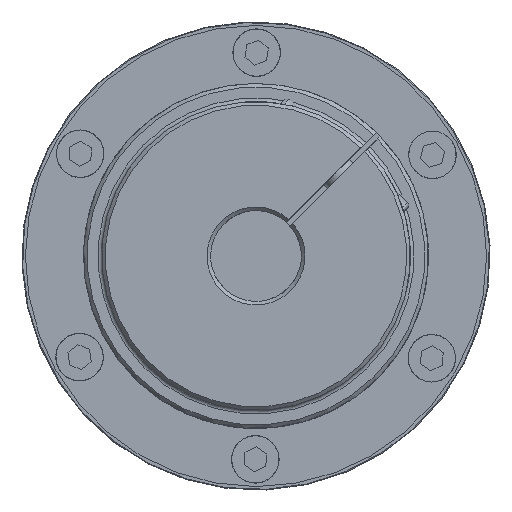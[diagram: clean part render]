
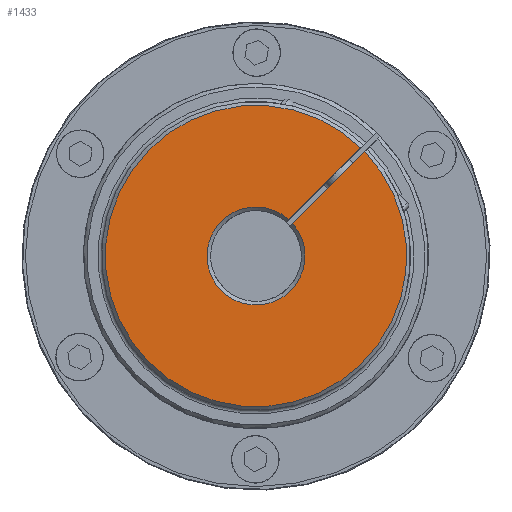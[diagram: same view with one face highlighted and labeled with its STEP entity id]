
A CAD part, left-side view. The second image highlights one B-rep face of the part: STEP entity #1433.
In plain terms, the highlighted planar face has unit normal (-1, 0, 0) as drawn and (0, 0, -1) by its records, which use the part's own axes.
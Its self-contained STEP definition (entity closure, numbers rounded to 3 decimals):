
#1433 = ADVANCED_FACE( '', ( #2858 ), #2859, .T. );
#2858 = FACE_OUTER_BOUND( '', #4338, .T. );
#2859 = PLANE( '', #4339 );
#4338 = EDGE_LOOP( '', ( #6703, #6704, #6705, #6706 ) );
#4339 = AXIS2_PLACEMENT_3D( '', #6707, #6708, #6709 );
#6703 = ORIENTED_EDGE( '', *, *, #8035, .T. );
#6704 = ORIENTED_EDGE( '', *, *, #8521, .T. );
#6705 = ORIENTED_EDGE( '', *, *, #8522, .T. );
#6706 = ORIENTED_EDGE( '', *, *, #7871, .F. );
#6707 = CARTESIAN_POINT( '', ( 0., 0., 0. ) );
#6708 = DIRECTION( '', ( 0., 0., -1. ) );
#6709 = DIRECTION( '', ( -1., 0., 0. ) );
#7871 = EDGE_CURVE( '', #9112, #9114, #9115, .T. );
#8035 = EDGE_CURVE( '', #9112, #9377, #9379, .T. );
#8521 = EDGE_CURVE( '', #9377, #10074, #10075, .T. );
#8522 = EDGE_CURVE( '', #10074, #9114, #10076, .F. );
#9112 = VERTEX_POINT( '', #10965 );
#9114 = VERTEX_POINT( '', #10970 );
#9115 = LINE( '', #10971, #10972 );
#9377 = VERTEX_POINT( '', #11472 );
#9379 = CIRCLE( '', #11477, 41.5 );
#10074 = VERTEX_POINT( '', #12647 );
#10075 = LINE( '', #12648, #12649 );
#10076 = CIRCLE( '', #12650, 13.5 );
#10965 = CARTESIAN_POINT( '', ( -0.75, -41.493, 0. ) );
#10970 = CARTESIAN_POINT( '', ( -0.75, -13.479, 0. ) );
#10971 = CARTESIAN_POINT( '', ( -0.75, 0., 0. ) );
#10972 = VECTOR( '', #13314, 1000. );
#11472 = CARTESIAN_POINT( '', ( 0.75, -41.493, 0. ) );
#11477 = AXIS2_PLACEMENT_3D( '', #13547, #13548, #13549 );
#12647 = CARTESIAN_POINT( '', ( 0.75, -13.479, 0. ) );
#12648 = CARTESIAN_POINT( '', ( 0.75, 0., 0. ) );
#12649 = VECTOR( '', #14216, 1000. );
#12650 = AXIS2_PLACEMENT_3D( '', #14217, #14218, #14219 );
#13314 = DIRECTION( '', ( 0., 1., 0. ) );
#13547 = CARTESIAN_POINT( '', ( 0., 0., 0. ) );
#13548 = DIRECTION( '', ( 0., 0., -1. ) );
#13549 = DIRECTION( '', ( -1., 0., 0. ) );
#14216 = DIRECTION( '', ( 0., 1., 0. ) );
#14217 = CARTESIAN_POINT( '', ( 0., 0., 0. ) );
#14218 = DIRECTION( '', ( 0., 0., -1. ) );
#14219 = DIRECTION( '', ( -1., 0., 0. ) );
